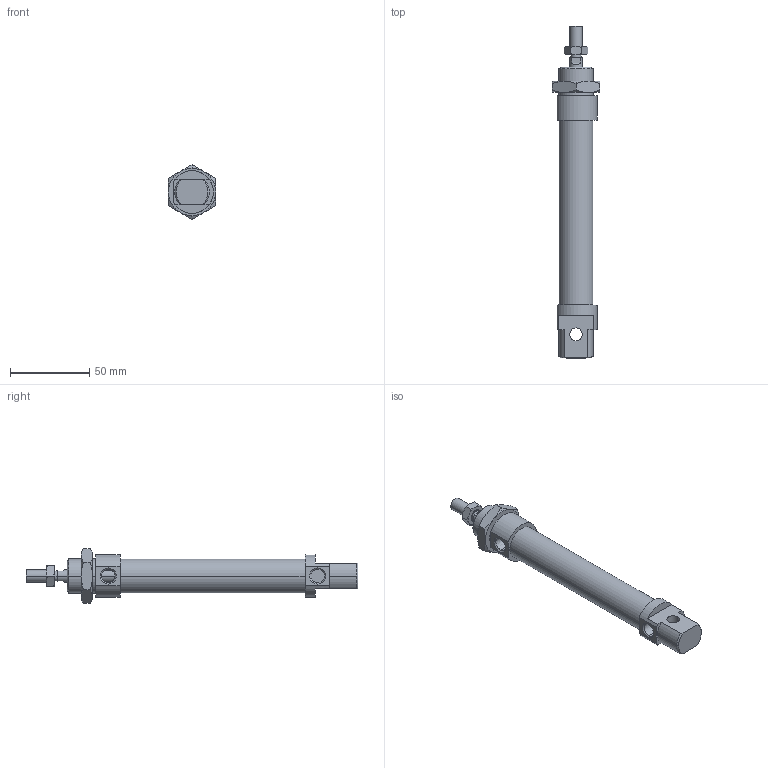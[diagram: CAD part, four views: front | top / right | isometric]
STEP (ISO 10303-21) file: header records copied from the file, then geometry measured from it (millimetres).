
FILE_DESCRIPTION((''),'2;1');
FILE_NAME('I:\DOC-EDP\Lib-3d\1200\CILINDRI\1280\1280_20_0080.stp','2003-04-07T15:52:00',('maffial1'),(''),'Autodesk Inventor (R) 6.0','Autodesk Inventor (R) 6.0','');
FILE_SCHEMA(('AUTOMOTIVE_DESIGN { 1 0 10303 214 1 1 1 1 }'));
Length unit declared in the file: millimetre
Products named in the file (5): 1280_20_0080; S1280_20_80; 1200_20_05; 1200_20_06; C1280_20_80
Assembly tree (4 placements, depth 2):
  1280_20_0080
    S1280_20_80
    1200_20_05
    1200_20_06
    C1280_20_80
Bounding box: 30 x 210 x 34.64 mm (x, y, z)
Volume: 72595.8 mm3; surface area: 23880.8 mm2
Topology: 4 solids, 4 shells, 124 faces, 281 edges, 170 vertices
Faces by surface type: plane 41, cone 40, cylinder 22, bspline 21
Entity records: 3816 total; most frequent: CARTESIAN_POINT 1039, DIRECTION 573, ORIENTED_EDGE 562, EDGE_CURVE 281, AXIS2_PLACEMENT_3D 236, VERTEX_POINT 170, EDGE_LOOP 137, FACE_OUTER_BOUND 124
